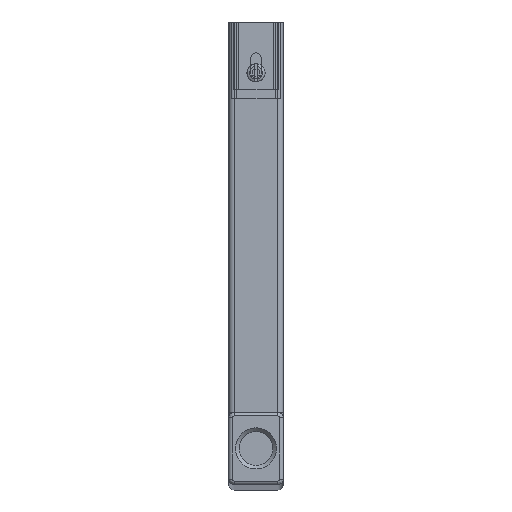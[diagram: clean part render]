
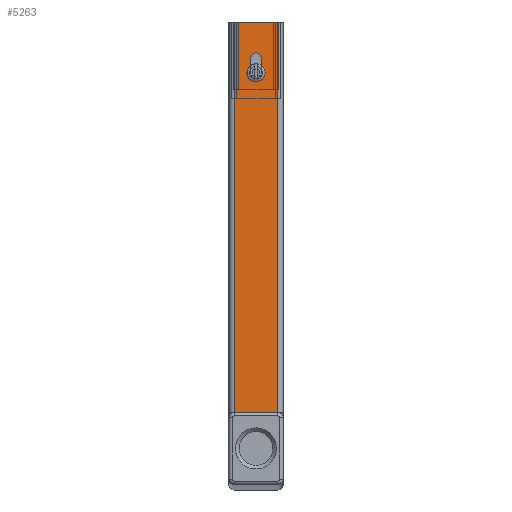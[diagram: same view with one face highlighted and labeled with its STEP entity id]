
A CAD part, top view. The second image highlights one B-rep face of the part: STEP entity #5263.
In plain terms, the highlighted planar face has unit normal (0, 0, 1).
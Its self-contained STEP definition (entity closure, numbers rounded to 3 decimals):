
#251=CARTESIAN_POINT('',(-3.,47.,1460.0));
#252=VERTEX_POINT('',#251);
#259=CARTESIAN_POINT('',(3.,47.,1460.0));
#260=VERTEX_POINT('',#259);
#261=CARTESIAN_POINT('',(0.0,47.,1460.0));
#262=DIRECTION('',(0.0,0.0,-1.0));
#263=DIRECTION('',(-1.0,0.0,0.0));
#264=AXIS2_PLACEMENT_3D('',#261,#262,#263);
#265=CIRCLE('',#264,3.);
#266=EDGE_CURVE('',#260,#252,#265,.T.);
#291=CARTESIAN_POINT('',(3.,55.0,1460.0));
#292=VERTEX_POINT('',#291);
#293=CARTESIAN_POINT('',(3.,55.0,1460.0));
#294=DIRECTION('',(0.0,-1.0,0.0));
#295=VECTOR('',#294,8.0);
#296=LINE('',#293,#295);
#297=EDGE_CURVE('',#292,#260,#296,.T.);
#323=CARTESIAN_POINT('',(-3.,55.0,1460.0));
#324=VERTEX_POINT('',#323);
#325=CARTESIAN_POINT('',(0.0,55.0,1460.0));
#326=DIRECTION('',(0.0,0.0,-1.0));
#327=DIRECTION('',(1.0,0.0,0.0));
#328=AXIS2_PLACEMENT_3D('',#325,#326,#327);
#329=CIRCLE('',#328,3.);
#330=EDGE_CURVE('',#324,#292,#329,.T.);
#353=CARTESIAN_POINT('',(-3.,47.,1460.0));
#354=DIRECTION('',(0.0,1.0,0.0));
#355=VECTOR('',#354,8.);
#356=LINE('',#353,#355);
#357=EDGE_CURVE('',#252,#324,#356,.T.);
#1986=CARTESIAN_POINT('',(-12.,-140.0,1460.0));
#1987=VERTEX_POINT('',#1986);
#2546=CARTESIAN_POINT('',(-12.,75.0,1460.0));
#2547=VERTEX_POINT('',#2546);
#2555=CARTESIAN_POINT('',(12.,75.0,1460.0));
#2556=VERTEX_POINT('',#2555);
#2557=CARTESIAN_POINT('',(-12.,75.0,1460.0));
#2558=DIRECTION('',(1.0,0.0,0.0));
#2559=VECTOR('',#2558,24.);
#2560=LINE('',#2557,#2559);
#2561=EDGE_CURVE('',#2547,#2556,#2560,.T.);
#4834=CARTESIAN_POINT('',(12.,-140.0,1460.0));
#4835=VERTEX_POINT('',#4834);
#5225=CARTESIAN_POINT('',(-12.,75.0,1460.0));
#5226=DIRECTION('',(0.0,-1.0,0.0));
#5227=VECTOR('',#5226,215.0);
#5228=LINE('',#5225,#5227);
#5229=EDGE_CURVE('',#2547,#1987,#5228,.T.);
#5236=CARTESIAN_POINT('',(-12.,75.0,1460.0));
#5237=DIRECTION('',(0.0,0.0,1.0));
#5238=DIRECTION('',(1.0,0.0,0.0));
#5239=AXIS2_PLACEMENT_3D('',#5236,#5237,#5238);
#5240=PLANE('',#5239);
#5241=CARTESIAN_POINT('',(12.,-140.0,1460.0));
#5242=DIRECTION('',(-1.0,0.0,0.0));
#5243=VECTOR('',#5242,24.);
#5244=LINE('',#5241,#5243);
#5245=EDGE_CURVE('',#4835,#1987,#5244,.T.);
#5246=ORIENTED_EDGE('',*,*,#5245,.F.);
#5247=CARTESIAN_POINT('',(12.,75.0,1460.0));
#5248=DIRECTION('',(0.0,-1.0,0.0));
#5249=VECTOR('',#5248,215.0);
#5250=LINE('',#5247,#5249);
#5251=EDGE_CURVE('',#2556,#4835,#5250,.T.);
#5252=ORIENTED_EDGE('',*,*,#5251,.F.);
#5253=ORIENTED_EDGE('',*,*,#2561,.F.);
#5254=ORIENTED_EDGE('',*,*,#5229,.T.);
#5255=EDGE_LOOP('',(#5246,#5252,#5253,#5254));
#5256=FACE_OUTER_BOUND('',#5255,.T.);
#5257=ORIENTED_EDGE('',*,*,#330,.T.);
#5258=ORIENTED_EDGE('',*,*,#297,.T.);
#5259=ORIENTED_EDGE('',*,*,#266,.T.);
#5260=ORIENTED_EDGE('',*,*,#357,.T.);
#5261=EDGE_LOOP('',(#5257,#5258,#5259,#5260));
#5262=FACE_BOUND('',#5261,.T.);
#5263=ADVANCED_FACE('',(#5256,#5262),#5240,.T.);
